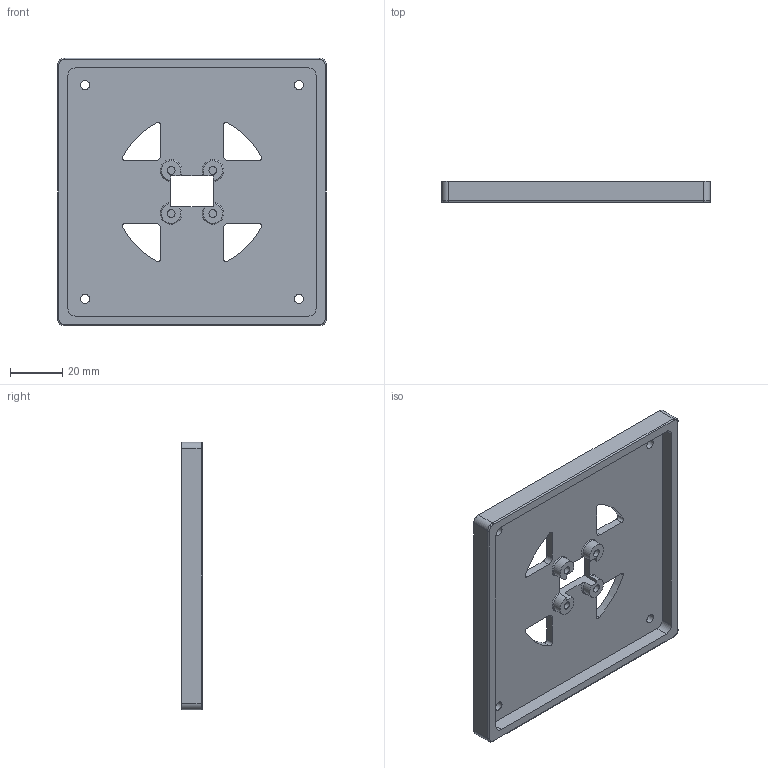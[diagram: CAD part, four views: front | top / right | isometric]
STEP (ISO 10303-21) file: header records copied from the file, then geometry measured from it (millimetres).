
FILE_DESCRIPTION(/* description */ ('STEP AP242','CAx-IF Rec.Pracs.---Representation and Presentation of Product Manufacturing Information (PMI)---4.0---2014-10-13','CAx-IF Rec.Pracs.---3D Tessellated Geometry---0.4---2014-09-14','2;1'),/* implementation_level */ '2;1');
FILE_NAME(/* name */ '68b14b0c51b0e33d86ec1513',/* time_stamp */ '2025-08-29T06:39:09Z',/* author */ (''),/* organization */ (''),/* preprocessor_version */ 'ST-DEVELOPER v20',/* originating_system */ 'ONSHAPE BY PTC INC, 1.202',/* authorisation */ ' ');
FILE_SCHEMA (('AP242_MANAGED_MODEL_BASED_3D_ENGINEERING_MIM_LF { 1 0 10303 442 1 1 4 }'));
Length unit declared in the file: metre
Products named in the file (1): gyun8D5Clm00
Bounding box: 103 x 8 x 102.5 mm (x, y, z)
Volume: 37382.2 mm3; surface area: 25900.8 mm2
Topology: 1 solids, 1 shells, 79 faces, 212 edges, 140 vertices
Faces by surface type: cylinder 40, plane 31, torus 4, cone 4
Full cylindrical faces by diameter (mm): 3 x4, 3.5 x4
Entity records: 2488 total; most frequent: DIRECTION 444, CARTESIAN_POINT 428, ORIENTED_EDGE 400, EDGE_CURVE 200, AXIS2_PLACEMENT_3D 168, VERTEX_POINT 136, EDGE_LOOP 110, FACE_BOUND 110
